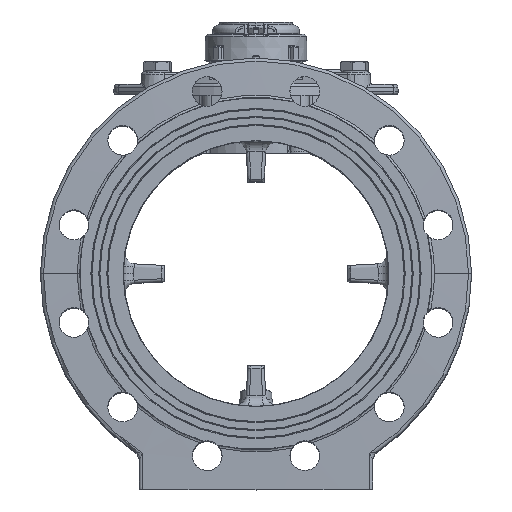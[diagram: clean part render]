
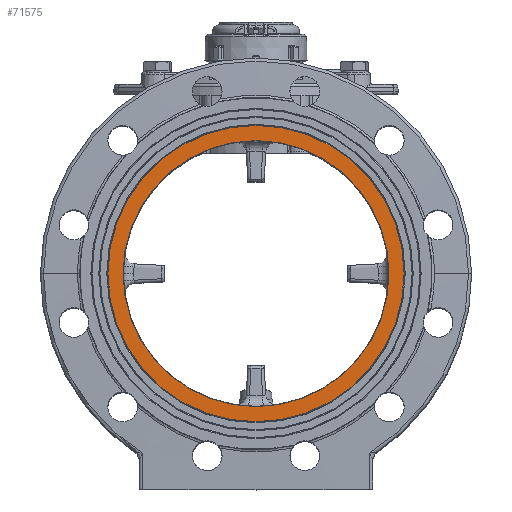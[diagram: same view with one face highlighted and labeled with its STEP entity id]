
A CAD part, top view. The second image highlights one B-rep face of the part: STEP entity #71575.
In plain terms, the highlighted planar face has unit normal (0, 0, 1) as drawn and (-1, 0, 0) by its records, which use the part's own axes.
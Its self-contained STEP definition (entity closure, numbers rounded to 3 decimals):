
#5312 = CIRCLE ( 'NONE', #5317, 139.482 ) ;
#5317 = AXIS2_PLACEMENT_3D ( 'NONE', #77042, #77043, #77044 ) ;
#13519 = EDGE_CURVE ( 'NONE', #92122, #92125, #63938, .T. ) ;
#21491 = CARTESIAN_POINT ( 'NONE',  ( -269.5, 139.482, 0. ) ) ;
#21492 = CARTESIAN_POINT ( 'NONE',  ( -269.5, -139.482, 0. ) ) ;
#24727 = CARTESIAN_POINT ( 'NONE',  ( -269.5, 0., 0. ) ) ;
#24728 = DIRECTION ( 'NONE',  ( -1., 0., 0. ) ) ;
#24729 = DIRECTION ( 'NONE',  ( 0., 0., -1. ) ) ;
#24787 = CARTESIAN_POINT ( 'NONE',  ( -269.5, 0., 0. ) ) ;
#24788 = DIRECTION ( 'NONE',  ( 1., 0., 0. ) ) ;
#24789 = DIRECTION ( 'NONE',  ( 0., 0., -1. ) ) ;
#28613 = FACE_OUTER_BOUND ( 'NONE', #76001, .T. ) ;
#28614 = FACE_BOUND ( 'NONE', #75998, .T. ) ;
#33706 = VERTEX_POINT ( 'NONE', #21491 ) ;
#33707 = VERTEX_POINT ( 'NONE', #21492 ) ;
#37689 = EDGE_CURVE ( 'NONE', #33706, #33707, #74832, .T. ) ;
#37693 = EDGE_CURVE ( 'NONE', #92125, #92122, #74834, .T. ) ;
#37888 = ORIENTED_EDGE ( 'NONE', *, *, #13519, .T. ) ;
#37893 = ORIENTED_EDGE ( 'NONE', *, *, #37689, .T. ) ;
#37897 = ORIENTED_EDGE ( 'NONE', *, *, #84365, .T. ) ;
#37899 = ORIENTED_EDGE ( 'NONE', *, *, #37693, .T. ) ;
#38472 = PLANE ( 'NONE',  #93275 ) ;
#38474 = CARTESIAN_POINT ( 'NONE',  ( -269.5, 232.723, -203. ) ) ;
#38476 = DIRECTION ( 'NONE',  ( 1., 0., 0. ) ) ;
#38478 = DIRECTION ( 'NONE',  ( 0., 0., -1. ) ) ;
#63938 = CIRCLE ( 'NONE', #66644, 125.208 ) ;
#66574 = CARTESIAN_POINT ( 'NONE',  ( -269.5, 0., 0. ) ) ;
#66575 = DIRECTION ( 'NONE',  ( 1., 0., 0. ) ) ;
#66576 = DIRECTION ( 'NONE',  ( 0., 0., -1. ) ) ;
#66644 = AXIS2_PLACEMENT_3D ( 'NONE', #66574, #66575, #66576 ) ;
#71575 = ADVANCED_FACE ( 'NONE', ( #28613, #28614 ), #38472, .F. ) ;
#74832 = CIRCLE ( 'NONE', #74833, 139.482 ) ;
#74833 = AXIS2_PLACEMENT_3D ( 'NONE', #24727, #24728, #24729 ) ;
#74834 = CIRCLE ( 'NONE', #74835, 125.208 ) ;
#74835 = AXIS2_PLACEMENT_3D ( 'NONE', #24787, #24788, #24789 ) ;
#75998 = EDGE_LOOP ( 'NONE', ( #37888, #37899 ) ) ;
#76001 = EDGE_LOOP ( 'NONE', ( #37893, #37897 ) ) ;
#77042 = CARTESIAN_POINT ( 'NONE',  ( -269.5, 0., 0. ) ) ;
#77043 = DIRECTION ( 'NONE',  ( -1., 0., 0. ) ) ;
#77044 = DIRECTION ( 'NONE',  ( 0., 0., -1. ) ) ;
#84365 = EDGE_CURVE ( 'NONE', #33707, #33706, #5312, .T. ) ;
#87752 = CARTESIAN_POINT ( 'NONE',  ( -269.5, 0., 125.208 ) ) ;
#87753 = CARTESIAN_POINT ( 'NONE',  ( -269.5, 0., -125.208 ) ) ;
#92122 = VERTEX_POINT ( 'NONE', #87752 ) ;
#92125 = VERTEX_POINT ( 'NONE', #87753 ) ;
#93275 = AXIS2_PLACEMENT_3D ( 'NONE', #38474, #38476, #38478 ) ;
